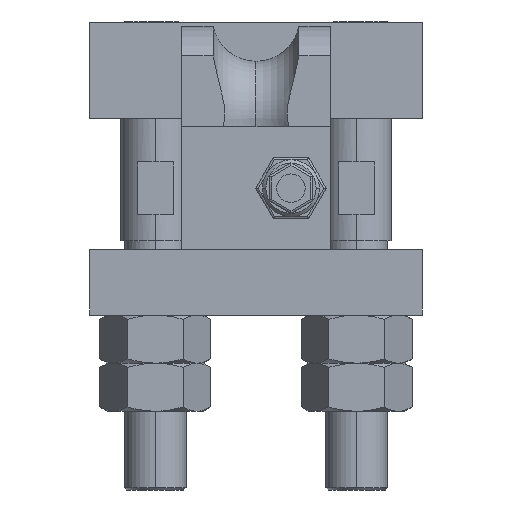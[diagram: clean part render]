
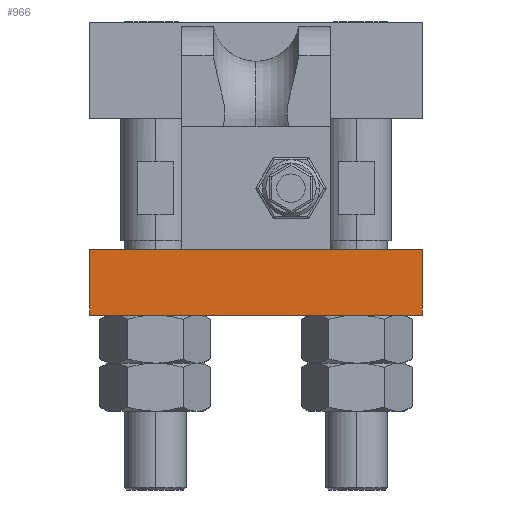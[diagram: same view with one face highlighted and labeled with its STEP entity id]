
A CAD part, left-side view. The second image highlights one B-rep face of the part: STEP entity #966.
In plain terms, the highlighted planar face has unit normal (-1, 0, 0).
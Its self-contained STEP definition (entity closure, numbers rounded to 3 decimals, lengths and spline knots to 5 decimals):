
#966=ADVANCED_FACE('0:1229',(#1845),#1846,.T.);
#1845=FACE_OUTER_BOUND('',#3335,.T.);
#1846=PLANE('',#3336);
#3335=EDGE_LOOP('',(#5130,#5131,#5132,#5133));
#3336=AXIS2_PLACEMENT_3D('',#5134,#5135,#5136);
#5130=ORIENTED_EDGE('',*,*,#6468,.F.);
#5131=ORIENTED_EDGE('',*,*,#6456,.F.);
#5132=ORIENTED_EDGE('',*,*,#6465,.F.);
#5133=ORIENTED_EDGE('',*,*,#6461,.F.);
#5134=CARTESIAN_POINT('',(-0.094,-0.018,-0.26173));
#5135=DIRECTION('',(-1.0,0.0,0.));
#5136=DIRECTION('',(0.,0.0,1.0));
#6456=EDGE_CURVE('0:1262',#7578,#7580,#7581,.T.);
#6461=EDGE_CURVE('0:1274',#7587,#7589,#7590,.T.);
#6465=EDGE_CURVE('0:1283',#7589,#7578,#7594,.T.);
#6468=EDGE_CURVE('0:1289',#7580,#7587,#7597,.T.);
#7578=VERTEX_POINT('',#9628);
#7580=VERTEX_POINT('',#9631);
#7581=LINE('',#9632,#9633);
#7587=VERTEX_POINT('',#9641);
#7589=VERTEX_POINT('',#9644);
#7590=LINE('',#9645,#9646);
#7594=LINE('',#9652,#9653);
#7597=LINE('',#9657,#9658);
#9628=CARTESIAN_POINT('',(-0.094,0.03,-0.04173));
#9631=CARTESIAN_POINT('',(-0.094,-0.046,-0.04173));
#9632=CARTESIAN_POINT('',(-0.094,0.03,-0.04173));
#9633=VECTOR('',#11029,1.0);
#9641=CARTESIAN_POINT('',(-0.094,-0.046,-0.05673));
#9644=CARTESIAN_POINT('',(-0.094,0.03,-0.05673));
#9645=CARTESIAN_POINT('',(-0.094,-0.046,-0.05673));
#9646=VECTOR('',#11033,1.0);
#9652=CARTESIAN_POINT('',(-0.094,0.03,-0.05673));
#9653=VECTOR('',#11036,1.0);
#9657=CARTESIAN_POINT('',(-0.094,-0.046,-0.04173));
#9658=VECTOR('',#11038,1.0);
#11029=DIRECTION('',(0.0,-1.0,0.0));
#11033=DIRECTION('',(0.0,1.0,0.0));
#11036=DIRECTION('',(0.,0.0,1.0));
#11038=DIRECTION('',(0.,0.0,-1.0));
